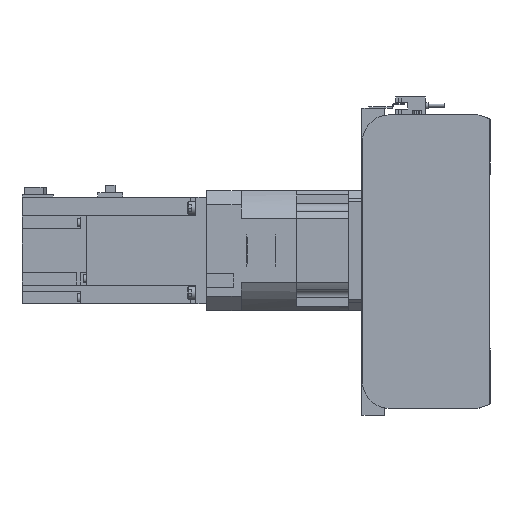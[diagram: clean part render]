
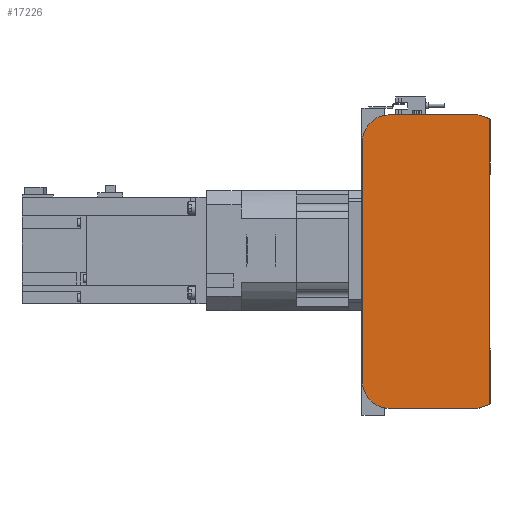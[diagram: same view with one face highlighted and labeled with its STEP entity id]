
A CAD part, left-side view. The second image highlights one B-rep face of the part: STEP entity #17226.
In plain terms, the highlighted planar face has unit normal (-1, 0, 0).
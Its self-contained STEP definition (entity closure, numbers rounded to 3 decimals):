
#972=CIRCLE('',#18790,20.);
#973=CIRCLE('',#18793,20.);
#4386=ORIENTED_EDGE('',*,*,#7496,.F.);
#4387=ORIENTED_EDGE('',*,*,#7538,.F.);
#4388=ORIENTED_EDGE('',*,*,#7536,.F.);
#4389=ORIENTED_EDGE('',*,*,#7534,.F.);
#4390=ORIENTED_EDGE('',*,*,#7523,.F.);
#4391=ORIENTED_EDGE('',*,*,#7514,.F.);
#4392=ORIENTED_EDGE('',*,*,#7510,.F.);
#4393=ORIENTED_EDGE('',*,*,#7507,.F.);
#7496=EDGE_CURVE('',#9395,#9396,#10939,.T.);
#7507=EDGE_CURVE('',#9396,#9403,#10950,.T.);
#7510=EDGE_CURVE('',#9403,#9405,#10953,.T.);
#7514=EDGE_CURVE('',#9405,#9406,#10957,.T.);
#7523=EDGE_CURVE('',#9406,#9412,#10966,.T.);
#7534=EDGE_CURVE('',#9412,#9419,#972,.T.);
#7536=EDGE_CURVE('',#9419,#9420,#10978,.T.);
#7538=EDGE_CURVE('',#9420,#9395,#973,.T.);
#9395=VERTEX_POINT('',#28292);
#9396=VERTEX_POINT('',#28294);
#9403=VERTEX_POINT('',#28313);
#9405=VERTEX_POINT('',#28319);
#9406=VERTEX_POINT('',#28325);
#9412=VERTEX_POINT('',#28341);
#9419=VERTEX_POINT('',#28360);
#9420=VERTEX_POINT('',#28364);
#10939=LINE('',#28293,#12502);
#10950=LINE('',#28312,#12513);
#10953=LINE('',#28318,#12516);
#10957=LINE('',#28324,#12520);
#10966=LINE('',#28340,#12529);
#10978=LINE('',#28363,#12541);
#12502=VECTOR('',#22825,1000.);
#12513=VECTOR('',#22838,1000.);
#12516=VECTOR('',#22843,1000.);
#12520=VECTOR('',#22849,1000.);
#12529=VECTOR('',#22860,1000.);
#12541=VECTOR('',#22878,1000.);
#13926=EDGE_LOOP('',(#4386,#4387,#4388,#4389,#4390,#4391,#4392,#4393));
#15426=FACE_BOUND('',#13926,.T.);
#16365=PLANE('',#18794);
#17226=ADVANCED_FACE('',(#15426),#16365,.F.);
#18790=AXIS2_PLACEMENT_3D('',#28359,#22873,#22874);
#18793=AXIS2_PLACEMENT_3D('',#28367,#22882,#22883);
#18794=AXIS2_PLACEMENT_3D('',#28368,#22884,#22885);
#22825=DIRECTION('',(0.,-1.,0.));
#22838=DIRECTION('',(0.,-0.945,-0.328));
#22843=DIRECTION('',(0.,0.,-1.));
#22849=DIRECTION('',(0.,0.945,-0.328));
#22860=DIRECTION('',(0.,1.,0.));
#22873=DIRECTION('',(1.,0.,0.));
#22874=DIRECTION('',(0.,0.,-1.));
#22878=DIRECTION('',(0.,0.,1.));
#22882=DIRECTION('',(1.,0.,0.));
#22883=DIRECTION('',(0.,0.,-1.));
#22884=DIRECTION('',(1.,0.,0.));
#22885=DIRECTION('',(0.,0.,-1.));
#28292=CARTESIAN_POINT('',(0.,75.5,110.));
#28293=CARTESIAN_POINT('',(0.,75.5,110.));
#28294=CARTESIAN_POINT('',(0.,9.,110.));
#28312=CARTESIAN_POINT('',(0.,9.,110.));
#28313=CARTESIAN_POINT('',(0.,0.5,107.05));
#28318=CARTESIAN_POINT('',(0.,0.5,107.05));
#28319=CARTESIAN_POINT('',(0.,0.5,-107.05));
#28324=CARTESIAN_POINT('',(0.,0.5,-107.05));
#28325=CARTESIAN_POINT('',(0.,9.,-110.));
#28340=CARTESIAN_POINT('',(0.,9.,-110.));
#28341=CARTESIAN_POINT('',(0.,75.5,-110.));
#28359=CARTESIAN_POINT('',(0.,75.5,-90.));
#28360=CARTESIAN_POINT('',(0.,95.5,-90.));
#28363=CARTESIAN_POINT('',(0.,95.5,-90.));
#28364=CARTESIAN_POINT('',(0.,95.5,90.));
#28367=CARTESIAN_POINT('',(0.,75.5,90.));
#28368=CARTESIAN_POINT('',(0.,75.5,-90.));
